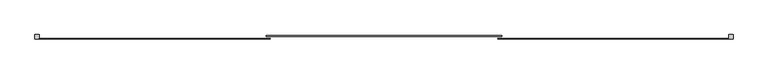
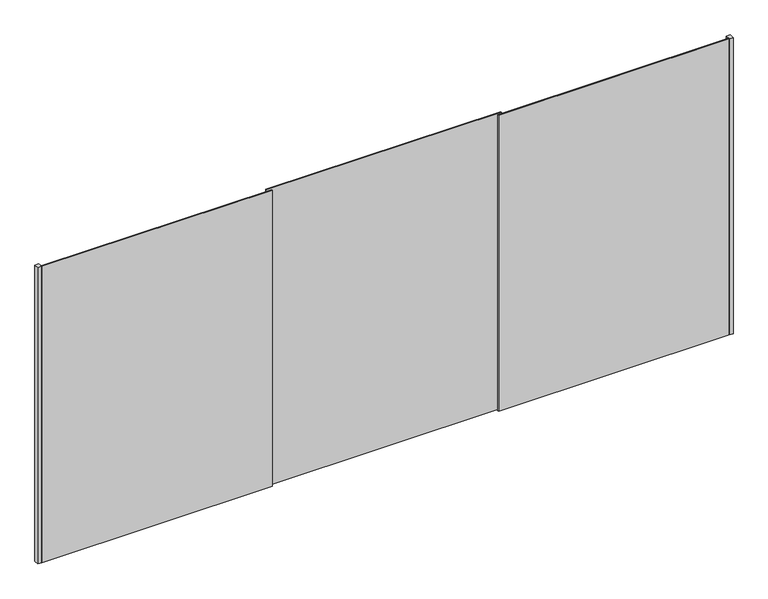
"""IFC4 building model written with IfcOpenShell, lengths in millimetres: furniture geometry, Puerta Closet corre 3 hojas : Puerta corrdiza 3 hojas PCLE-01."""

from ifc_helpers import new_model, si_unit, origin, origin_with_axes, place, context, project, spatial, polyline, outline, extrude, source, transform, mapped, element, save


def furniture_f1b7d8eb(model_context):
    return source(origin(), model_context, "Body", "SweptSolid", [
        extrude(outline(polyline([(3820.0, 86.6666667), (3790.0, 86.6666667), (3790.0, 120.0), (3820.0, 120.0), (3820.0, 86.6666667)])), origin_with_axes(), (0.0, 0.0, 1.0), 2300.0),
        extrude(outline(polyline([(3790.0, 86.6666667), (2096.6666667, 86.6666667), (2096.6666667, 93.3333333), (3790.0, 93.3333333), (3790.0, 86.6666667)])), origin_with_axes(), (0.0, 0.0, 1.0), 2300.0),
        extrude(outline(polyline([(2126.6666667, 106.6666667), (403.3333333, 106.6666667), (403.3333333, 113.3333333), (2126.6666667, 113.3333333), (2126.6666667, 106.6666667)])), origin_with_axes(), (0.0, 0.0, 1.0), 2300.0),
        extrude(outline(polyline([(433.3333333, 86.6666667), (-1260.0, 86.6666667), (-1260.0, 93.3333333), (433.3333333, 93.3333333), (433.3333333, 86.6666667)])), origin_with_axes(), (0.0, 0.0, 1.0), 2300.0),
        extrude(outline(polyline([(-1290.0, 86.6666667), (-1290.0, 120.0), (-1260.0, 120.0), (-1260.0, 86.6666667), (-1290.0, 86.6666667)])), origin_with_axes(), (0.0, 0.0, 1.0), 2300.0),
    ])


if __name__ == "__main__":
    model = new_model("IFC4")
    model_context = context("Model", 3, world=origin())
    ifc_project = project(units=[si_unit("LENGTHUNIT", "METRE", prefix="MILLI")], contexts=[model_context])
    site = spatial("IfcSite", under=ifc_project)
    building = spatial("IfcBuilding", under=site)
    placement = place(None, origin())
    furniture_shape = furniture_f1b7d8eb(model_context)
    element("IfcFurniture", 1, ObjectType="Puerta Closet corre 3 hojas : Puerta corrdiza 3 hojas PCLE-01", at=placement, inside=building, context=model_context, shape_type="MappedRepresentation", body=[
        mapped(furniture_shape, transform((0.0, 0.0, 0.0), x_axis=(1.0, 0.0, 0.0), y_axis=(0.0, 1.0, 0.0), z_axis=(0.0, 0.0, 1.0))),
    ])
    save(model, "model.ifc")
